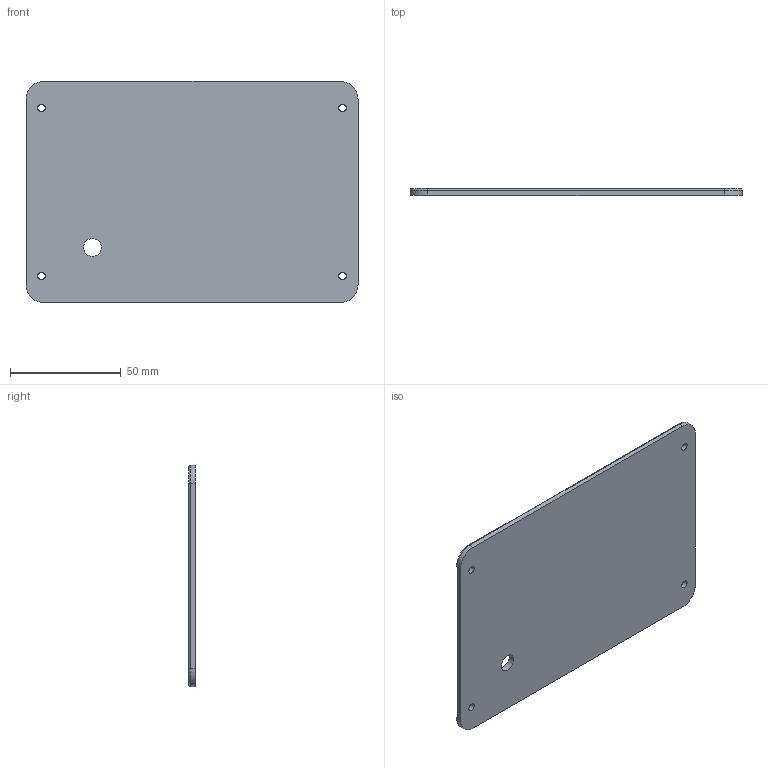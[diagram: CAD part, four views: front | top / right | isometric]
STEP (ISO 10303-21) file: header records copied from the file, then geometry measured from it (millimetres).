
FILE_DESCRIPTION(('Open CASCADE Model'),'2;1');
FILE_NAME('Open CASCADE Shape Model','2026-10-07T22:00:02',('Author'),( 'Open CASCADE'),'Open CASCADE STEP processor 7.9','Open CASCADE 7.9' ,'Unknown');
FILE_SCHEMA(('AUTOMOTIVE_DESIGN { 1 0 10303 214 1 1 1 1 }'));
Length unit declared in the file: millimetre
Products named in the file (1): Open CASCADE STEP translator 7.9 2
Bounding box: 150 x 3 x 100 mm (x, y, z)
Volume: 44508.8 mm3; surface area: 31212.1 mm2
Topology: 1 solids, 1 shells, 23 faces, 55 edges, 34 vertices
Faces by surface type: cylinder 13, plane 6, torus 4
Full cylindrical faces by diameter (mm): 3.4 x4, 8 x1
Entity records: 1422 total; most frequent: CARTESIAN_POINT 275, DIRECTION 221, ORIENTED_EDGE 110, PCURVE 110, DEFINITIONAL_REPRESENTATION 110, LINE 101, VECTOR 101, EDGE_CURVE 55
